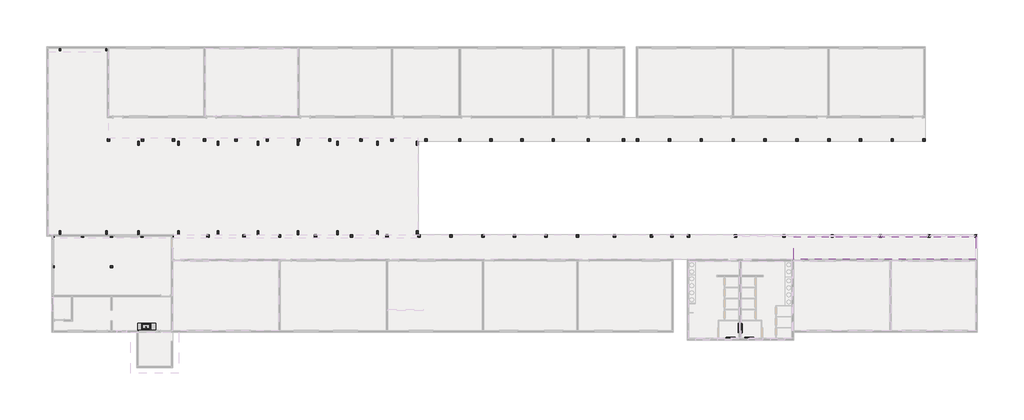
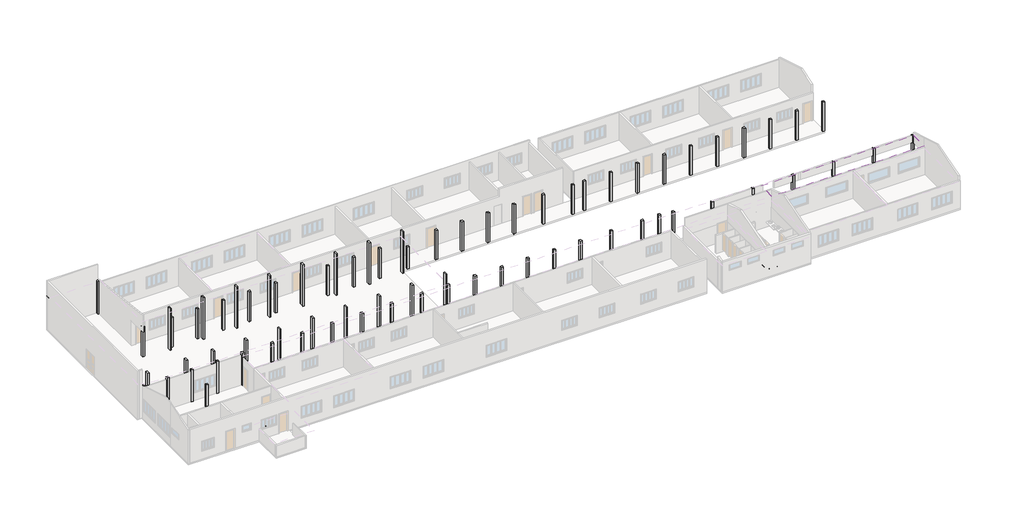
# One storey, part 5 of 5: 77 columns, 5 flow terminals, 1 covering, 1 furniture element.
"""IFC4 building model written with IfcOpenShell, lengths in millimetres."""

from ifc_helpers import new_model, si_unit, frame, origin, origin_with_axes, place, context, project, spatial, polyline, outline, extrude, transform, mapped, element, save
from components import h_af8cb1f5, h_bb77d2ff, m_sink_kitchen_single_760_x_535mm_74321b3d, m_counter_top_w_sink_600mm_depth_3438d379

model = new_model("IFC4")

# Units and contexts
model_context = context("Model", 3, world=origin())
ifc_project = project(units=[si_unit("LENGTHUNIT", "METRE", prefix="MILLI")], contexts=[model_context])

# Site, building, storey
site = spatial("IfcSite", under=ifc_project)
building = spatial("IfcBuilding", under=site)
storey = spatial("IfcBuildingStorey", under=building, Name="Planta de implantação", Elevation=0.0)

# Columns
placement = place(None, origin())
element("IfcColumn", 1, ObjectType="M_Concrete-Rectangular-Column : 130 x 350mm", at=placement, inside=storey, context=model_context, shape_type="SweptSolid", body=[
    extrude(outline(polyline([(-3710.2352635, -12868.3222718), (-3840.2352635, -12868.3222718), (-3840.2352635, -12518.3222718), (-3710.2352635, -12518.3222718), (-3710.2352635, -12868.3222718)])), origin_with_axes(), (0.0, 0.0, 1.0), 4536.0),
])
element("IfcColumn", 2, ObjectType="M_Concrete-Rectangular-Column : 130 x 350mm", at=placement, inside=storey, context=model_context, shape_type="SweptSolid", body=[
    extrude(outline(polyline([(-7110.2352635, -12868.3222718), (-7240.2352635, -12868.3222718), (-7240.2352635, -12518.3222718), (-7110.2352635, -12518.3222718), (-7110.2352635, -12868.3222718)])), origin_with_axes(), (0.0, 0.0, 1.0), 4536.0),
])
element("IfcColumn", 3, ObjectType="M_Concrete-Rectangular-Column : 130 x 350mm", at=placement, inside=storey, context=model_context, shape_type="SweptSolid", body=[
    extrude(outline(polyline([(-10510.2352635, -12868.3222718), (-10640.2352635, -12868.3222718), (-10640.2352635, -12518.3222718), (-10510.2352635, -12518.3222718), (-10510.2352635, -12868.3222718)])), origin_with_axes(), (0.0, 0.0, 1.0), 4536.0),
])
element("IfcColumn", 4, ObjectType="M_Concrete-Rectangular-Column : 130 x 350mm", at=placement, inside=storey, context=model_context, shape_type="SweptSolid", body=[
    extrude(outline(polyline([(-13910.2352635, -12868.3222718), (-14040.2352635, -12868.3222718), (-14040.2352635, -12518.3222718), (-13910.2352635, -12518.3222718), (-13910.2352635, -12868.3222718)])), origin_with_axes(), (0.0, 0.0, 1.0), 4536.0),
])
element("IfcColumn", 5, ObjectType="M_Concrete-Rectangular-Column : 130 x 350mm", at=placement, inside=storey, context=model_context, shape_type="SweptSolid", body=[
    extrude(outline(polyline([(-17310.2352635, -12868.3222718), (-17440.2352635, -12868.3222718), (-17440.2352635, -12518.3222718), (-17310.2352635, -12518.3222718), (-17310.2352635, -12868.3222718)])), origin_with_axes(), (0.0, 0.0, 1.0), 4536.0),
])
element("IfcColumn", 6, ObjectType="M_Concrete-Rectangular-Column : 130 x 350mm", at=placement, inside=storey, context=model_context, shape_type="SweptSolid", body=[
    extrude(outline(polyline([(-20710.2352635, -12868.3222718), (-20840.2352635, -12868.3222718), (-20840.2352635, -12518.3222718), (-20710.2352635, -12518.3222718), (-20710.2352635, -12868.3222718)])), origin_with_axes(), (0.0, 0.0, 1.0), 4536.0),
])
element("IfcColumn", 7, ObjectType="M_Concrete-Rectangular-Column : 130 x 350mm", at=placement, inside=storey, context=model_context, shape_type="SweptSolid", body=[
    extrude(outline(polyline([(-24110.2352635, -12868.3222718), (-24240.2352635, -12868.3222718), (-24240.2352635, -12518.3222718), (-24110.2352635, -12518.3222718), (-24110.2352635, -12868.3222718)])), origin_with_axes(), (0.0, 0.0, 1.0), 4536.0),
])
element("IfcColumn", 8, ObjectType="M_Concrete-Rectangular-Column : 130 x 350mm", at=placement, inside=storey, context=model_context, shape_type="SweptSolid", body=[
    extrude(outline(polyline([(-27510.2352635, -12868.3222718), (-27640.2352635, -12868.3222718), (-27640.2352635, -12518.3222718), (-27510.2352635, -12518.3222718), (-27510.2352635, -12868.3222718)])), origin_with_axes(), (0.0, 0.0, 1.0), 4536.0),
])
element("IfcColumn", 9, ObjectType="M_Concrete-Rectangular-Column : 130 x 350mm", at=placement, inside=storey, context=model_context, shape_type="SweptSolid", body=[
    extrude(outline(polyline([(-34210.2352635, -4808.3222718), (-34340.2352635, -4808.3222718), (-34340.2352635, -4458.3222718), (-34210.2352635, -4458.3222718), (-34210.2352635, -4808.3222718)])), origin_with_axes(), (0.0, 0.0, 1.0), 3568.8),
])
element("IfcColumn", 10, ObjectType="M_Concrete-Rectangular-Column : 130 x 350mm", at=placement, inside=storey, context=model_context, shape_type="SweptSolid", body=[
    extrude(outline(polyline([(-35310.2352635, -4808.3222718), (-35440.2352635, -4808.3222718), (-35440.2352635, -4458.3222718), (-35310.2352635, -4458.3222718), (-35310.2352635, -4808.3222718)])), origin_with_axes(), (0.0, 0.0, 1.0), 3568.8),
])
element("IfcColumn", 11, ObjectType="M_Concrete-Rectangular-Column : 130 x 350mm", at=placement, inside=storey, context=model_context, shape_type="SweptSolid", body=[
    extrude(outline(polyline([(-3710.2352635, -20518.3222718), (-3840.2352635, -20518.3222718), (-3840.2352635, -20168.3222718), (-3710.2352635, -20168.3222718), (-3710.2352635, -20518.3222718)])), origin_with_axes(), (0.0, 0.0, 1.0), 4536.0),
])
element("IfcColumn", 12, ObjectType="M_Concrete-Rectangular-Column : 130 x 350mm", at=placement, inside=storey, context=model_context, shape_type="SweptSolid", body=[
    extrude(outline(polyline([(-7110.2352635, -20518.3222718), (-7240.2352635, -20518.3222718), (-7240.2352635, -20168.3222718), (-7110.2352635, -20168.3222718), (-7110.2352635, -20518.3222718)])), origin_with_axes(), (0.0, 0.0, 1.0), 4536.0),
])
element("IfcColumn", 13, ObjectType="M_Concrete-Rectangular-Column : 130 x 350mm", at=placement, inside=storey, context=model_context, shape_type="SweptSolid", body=[
    extrude(outline(polyline([(-10510.2352635, -20518.3222718), (-10640.2352635, -20518.3222718), (-10640.2352635, -20168.3222718), (-10510.2352635, -20168.3222718), (-10510.2352635, -20518.3222718)])), origin_with_axes(), (0.0, 0.0, 1.0), 4536.0),
])
element("IfcColumn", 14, ObjectType="M_Concrete-Rectangular-Column : 130 x 350mm", at=placement, inside=storey, context=model_context, shape_type="SweptSolid", body=[
    extrude(outline(polyline([(-13910.2352635, -20518.3222718), (-14040.2352635, -20518.3222718), (-14040.2352635, -20168.3222718), (-13910.2352635, -20168.3222718), (-13910.2352635, -20518.3222718)])), origin_with_axes(), (0.0, 0.0, 1.0), 4536.0),
])
element("IfcColumn", 15, ObjectType="M_Concrete-Rectangular-Column : 130 x 350mm", at=placement, inside=storey, context=model_context, shape_type="SweptSolid", body=[
    extrude(outline(polyline([(-17310.2352635, -20518.3222718), (-17440.2352635, -20518.3222718), (-17440.2352635, -20168.3222718), (-17310.2352635, -20168.3222718), (-17310.2352635, -20518.3222718)])), origin_with_axes(), (0.0, 0.0, 1.0), 4536.0),
])
element("IfcColumn", 16, ObjectType="M_Concrete-Rectangular-Column : 130 x 350mm", at=placement, inside=storey, context=model_context, shape_type="SweptSolid", body=[
    extrude(outline(polyline([(-20710.2352635, -20518.3222718), (-20840.2352635, -20518.3222718), (-20840.2352635, -20168.3222718), (-20710.2352635, -20168.3222718), (-20710.2352635, -20518.3222718)])), origin_with_axes(), (0.0, 0.0, 1.0), 4536.0),
])
element("IfcColumn", 17, ObjectType="M_Concrete-Rectangular-Column : 130 x 350mm", at=placement, inside=storey, context=model_context, shape_type="SweptSolid", body=[
    extrude(outline(polyline([(-24110.2352635, -20518.3222718), (-24240.2352635, -20518.3222718), (-24240.2352635, -20168.3222718), (-24110.2352635, -20168.3222718), (-24110.2352635, -20518.3222718)])), origin_with_axes(), (0.0, 0.0, 1.0), 4536.0),
])
element("IfcColumn", 18, ObjectType="M_Concrete-Rectangular-Column : 130 x 350mm", at=placement, inside=storey, context=model_context, shape_type="SweptSolid", body=[
    extrude(outline(polyline([(-27510.2352635, -20518.3222718), (-27640.2352635, -20518.3222718), (-27640.2352635, -20168.3222718), (-27510.2352635, -20168.3222718), (-27510.2352635, -20518.3222718)])), origin_with_axes(), (0.0, 0.0, 1.0), 4536.0),
])
element("IfcColumn", 19, ObjectType="M_Concrete-Rectangular-Column : 130 x 350mm", at=placement, inside=storey, context=model_context, shape_type="SweptSolid", body=[
    extrude(outline(polyline([(-30260.2352635, -20518.3222718), (-30390.2352635, -20518.3222718), (-30390.2352635, -20168.3222718), (-30260.2352635, -20168.3222718), (-30260.2352635, -20518.3222718)])), origin_with_axes(), (0.0, 0.0, 1.0), 4536.0),
])
element("IfcColumn", 20, ObjectType="M_Concrete-Rectangular-Column : 130 x 350mm", at=placement, inside=storey, context=model_context, shape_type="SweptSolid", body=[
    extrude(outline(polyline([(-34210.2352635, -20518.3222718), (-34340.2352635, -20518.3222718), (-34340.2352635, -20168.3222718), (-34210.2352635, -20168.3222718), (-34210.2352635, -20518.3222718)])), origin_with_axes(), (0.0, 0.0, 1.0), 4536.0),
])
element("IfcColumn", 21, ObjectType="M_Concrete-Rectangular-Column : 130 x 350mm", at=placement, inside=storey, context=model_context, shape_type="SweptSolid", body=[
    extrude(outline(polyline([(-30260.2352635, -4808.3222718), (-30390.2352635, -4808.3222718), (-30390.2352635, -4458.3222718), (-30260.2352635, -4458.3222718), (-30260.2352635, -4808.3222718)])), origin_with_axes(), (0.0, 0.0, 1.0), 3568.8),
])
element("IfcColumn", 22, ObjectType="M_Concrete-Square-Column : 200 x 200mm", at=placement, inside=storey, context=model_context, shape_type="SweptSolid", body=[
    extrude(outline(polyline([(-30060.2352635, -12518.3222718), (-30260.2352635, -12518.3222718), (-30260.2352635, -12318.3222718), (-30060.2352635, -12318.3222718), (-30060.2352635, -12518.3222718)])), origin_with_axes(), (0.0, 0.0, 1.0), 3240.0),
])
element("IfcColumn", 23, ObjectType="M_Concrete-Square-Column : 200 x 200mm", at=placement, inside=storey, context=model_context, shape_type="SweptSolid", body=[
    extrude(outline(polyline([(13949.7647365, -12518.3222718), (13749.7647365, -12518.3222718), (13749.7647365, -12318.3222718), (13949.7647365, -12318.3222718), (13949.7647365, -12518.3222718)])), origin_with_axes(), (0.0, 0.0, 1.0), 3210.0),
])
element("IfcColumn", 24, ObjectType="M_Concrete-Square-Column : 200 x 200mm", at=placement, inside=storey, context=model_context, shape_type="SweptSolid", body=[
    extrude(outline(polyline([(15129.7647365, -12518.3222718), (14929.7647365, -12518.3222718), (14929.7647365, -12318.3222718), (15129.7647365, -12318.3222718), (15129.7647365, -12518.3222718)])), origin_with_axes(), (0.0, 0.0, 1.0), 3210.0),
])
element("IfcColumn", 25, ObjectType="M_Concrete-Square-Column : 200 x 200mm", at=placement, inside=storey, context=model_context, shape_type="SweptSolid", body=[
    extrude(outline(polyline([(39599.7647365, -12518.3222718), (39399.7647365, -12518.3222718), (39399.7647365, -12318.3222718), (39599.7647365, -12318.3222718), (39599.7647365, -12518.3222718)])), origin_with_axes(), (0.0, 0.0, 1.0), 3210.0),
])
element("IfcColumn", 26, ObjectType="M_Concrete-Square-Column : 200 x 200mm", at=placement, inside=storey, context=model_context, shape_type="SweptSolid", body=[
    extrude(outline(polyline([(-21835.2352635, -12518.3222718), (-22035.2352635, -12518.3222718), (-22035.2352635, -12318.3222718), (-21835.2352635, -12318.3222718), (-21835.2352635, -12518.3222718)])), origin_with_axes(), (0.0, 0.0, 1.0), 3240.0),
])
element("IfcColumn", 27, ObjectType="M_Concrete-Square-Column : 200 x 200mm", at=placement, inside=storey, context=model_context, shape_type="SweptSolid", body=[
    extrude(outline(polyline([(-24483.5685969, -12518.3222718), (-24683.5685969, -12518.3222718), (-24683.5685969, -12318.3222718), (-24483.5685969, -12318.3222718), (-24483.5685969, -12518.3222718)])), origin_with_axes(), (0.0, 0.0, 1.0), 3240.0),
])
element("IfcColumn", 28, ObjectType="M_Concrete-Square-Column : 200 x 200mm", at=placement, inside=storey, context=model_context, shape_type="SweptSolid", body=[
    extrude(outline(polyline([(-27131.9019302, -12518.3222718), (-27331.9019302, -12518.3222718), (-27331.9019302, -12318.3222718), (-27131.9019302, -12318.3222718), (-27131.9019302, -12518.3222718)])), origin_with_axes(), (0.0, 0.0, 1.0), 3240.0),
])
element("IfcColumn", 29, ObjectType="M_Concrete-Square-Column : 200 x 200mm", at=placement, inside=storey, context=model_context, shape_type="SweptSolid", body=[
    extrude(outline(polyline([(-13805.2352635, -12518.3222718), (-14005.2352635, -12518.3222718), (-14005.2352635, -12318.3222718), (-13805.2352635, -12318.3222718), (-13805.2352635, -12518.3222718)])), origin_with_axes(), (0.0, 0.0, 1.0), 3240.0),
])
element("IfcColumn", 30, ObjectType="M_Concrete-Square-Column : 200 x 200mm", at=placement, inside=storey, context=model_context, shape_type="SweptSolid", body=[
    extrude(outline(polyline([(-16481.9019302, -12518.3222718), (-16681.9019302, -12518.3222718), (-16681.9019302, -12318.3222718), (-16481.9019302, -12318.3222718), (-16481.9019302, -12518.3222718)])), origin_with_axes(), (0.0, 0.0, 1.0), 3240.0),
])
element("IfcColumn", 31, ObjectType="M_Concrete-Square-Column : 200 x 200mm", at=placement, inside=storey, context=model_context, shape_type="SweptSolid", body=[
    extrude(outline(polyline([(-19158.5685969, -12518.3222718), (-19358.5685969, -12518.3222718), (-19358.5685969, -12318.3222718), (-19158.5685969, -12318.3222718), (-19158.5685969, -12518.3222718)])), origin_with_axes(), (0.0, 0.0, 1.0), 3240.0),
])
element("IfcColumn", 32, ObjectType="M_Concrete-Square-Column : 200 x 200mm", at=placement, inside=storey, context=model_context, shape_type="SweptSolid", body=[
    extrude(outline(polyline([(-5825.2352635, -12518.3222718), (-6025.2352635, -12518.3222718), (-6025.2352635, -12318.3222718), (-5825.2352635, -12318.3222718), (-5825.2352635, -12518.3222718)])), origin_with_axes(), (0.0, 0.0, 1.0), 3240.0),
])
element("IfcColumn", 33, ObjectType="M_Concrete-Square-Column : 200 x 200mm", at=placement, inside=storey, context=model_context, shape_type="SweptSolid", body=[
    extrude(outline(polyline([(-8485.2352635, -12518.3222718), (-8685.2352635, -12518.3222718), (-8685.2352635, -12318.3222718), (-8485.2352635, -12318.3222718), (-8485.2352635, -12518.3222718)])), origin_with_axes(), (0.0, 0.0, 1.0), 3240.0),
])
element("IfcColumn", 34, ObjectType="M_Concrete-Square-Column : 200 x 200mm", at=placement, inside=storey, context=model_context, shape_type="SweptSolid", body=[
    extrude(outline(polyline([(-11145.2352635, -12518.3222718), (-11345.2352635, -12518.3222718), (-11345.2352635, -12318.3222718), (-11145.2352635, -12318.3222718), (-11145.2352635, -12518.3222718)])), origin_with_axes(), (0.0, 0.0, 1.0), 3240.0),
])
element("IfcColumn", 35, ObjectType="M_Concrete-Square-Column : 200 x 200mm", at=placement, inside=storey, context=model_context, shape_type="SweptSolid", body=[
    extrude(outline(polyline([(-45.2352635, -12518.3222718), (-245.2352635, -12518.3222718), (-245.2352635, -12318.3222718), (-45.2352635, -12318.3222718), (-45.2352635, -12518.3222718)])), origin_with_axes(), (0.0, 0.0, 1.0), 3210.0),
])
element("IfcColumn", 36, ObjectType="M_Concrete-Square-Column : 200 x 200mm", at=placement, inside=storey, context=model_context, shape_type="SweptSolid", body=[
    extrude(outline(polyline([(-2935.2352635, -12518.3222718), (-3135.2352635, -12518.3222718), (-3135.2352635, -12318.3222718), (-2935.2352635, -12318.3222718), (-2935.2352635, -12518.3222718)])), origin_with_axes(), (0.0, 0.0, 1.0), 2390.0),
])
element("IfcColumn", 37, ObjectType="M_Concrete-Square-Column : 200 x 200mm", at=placement, inside=storey, context=model_context, shape_type="SweptSolid", body=[
    extrude(outline(polyline([(7934.7647365, -12518.3222718), (7734.7647365, -12518.3222718), (7734.7647365, -12318.3222718), (7934.7647365, -12318.3222718), (7934.7647365, -12518.3222718)])), origin_with_axes(), (0.0, 0.0, 1.0), 3210.0),
])
element("IfcColumn", 38, ObjectType="M_Concrete-Square-Column : 200 x 200mm", at=placement, inside=storey, context=model_context, shape_type="SweptSolid", body=[
    extrude(outline(polyline([(5274.7647365, -12518.3222718), (5074.7647365, -12518.3222718), (5074.7647365, -12318.3222718), (5274.7647365, -12318.3222718), (5274.7647365, -12518.3222718)])), origin_with_axes(), (0.0, 0.0, 1.0), 3210.0),
])
element("IfcColumn", 39, ObjectType="M_Concrete-Square-Column : 200 x 200mm", at=placement, inside=storey, context=model_context, shape_type="SweptSolid", body=[
    extrude(outline(polyline([(2614.7647365, -12518.3222718), (2414.7647365, -12518.3222718), (2414.7647365, -12318.3222718), (2614.7647365, -12318.3222718), (2614.7647365, -12518.3222718)])), origin_with_axes(), (0.0, 0.0, 1.0), 3210.0),
])
element("IfcColumn", 40, ObjectType="M_Concrete-Square-Column : 200 x 200mm", at=placement, inside=storey, context=model_context, shape_type="SweptSolid", body=[
    extrude(outline(polyline([(10934.7647365, -12518.3222718), (10734.7647365, -12518.3222718), (10734.7647365, -12318.3222718), (10934.7647365, -12318.3222718), (10934.7647365, -12518.3222718)])), origin_with_axes(), (0.0, 0.0, 1.0), 3210.0),
])
element("IfcColumn", 41, ObjectType="M_Concrete-Square-Column : 200 x 200mm", at=placement, inside=storey, context=model_context, shape_type="SweptSolid", body=[
    extrude(outline(polyline([(23309.7647365, -12518.3222718), (23109.7647365, -12518.3222718), (23109.7647365, -12318.3222718), (23309.7647365, -12318.3222718), (23309.7647365, -12518.3222718)])), origin_with_axes(), (0.0, 0.0, 1.0), 3210.0),
])
element("IfcColumn", 42, ObjectType="M_Concrete-Square-Column : 200 x 200mm", at=placement, inside=storey, context=model_context, shape_type="SweptSolid", body=[
    extrude(outline(polyline([(31489.7647365, -12518.3222718), (31289.7647365, -12518.3222718), (31289.7647365, -12318.3222718), (31489.7647365, -12318.3222718), (31489.7647365, -12518.3222718)])), origin_with_axes(), (0.0, 0.0, 1.0), 3210.0),
])
element("IfcColumn", 43, ObjectType="M_Concrete-Square-Column : 200 x 200mm", at=placement, inside=storey, context=model_context, shape_type="SweptSolid", body=[
    extrude(outline(polyline([(36896.4314031, -12518.3222718), (36696.4314031, -12518.3222718), (36696.4314031, -12318.3222718), (36896.4314031, -12318.3222718), (36896.4314031, -12518.3222718)])), origin_with_axes(), (0.0, 0.0, 1.0), 3210.0),
])
element("IfcColumn", 44, ObjectType="M_Concrete-Square-Column : 200 x 200mm", at=placement, inside=storey, context=model_context, shape_type="SweptSolid", body=[
    extrude(outline(polyline([(20583.0980698, -12518.3222718), (20383.0980698, -12518.3222718), (20383.0980698, -12318.3222718), (20583.0980698, -12318.3222718), (20583.0980698, -12518.3222718)])), origin_with_axes(), (0.0, 0.0, 1.0), 3210.0),
])
element("IfcColumn", 45, ObjectType="M_Concrete-Square-Column : 200 x 200mm", at=placement, inside=storey, context=model_context, shape_type="SweptSolid", body=[
    extrude(outline(polyline([(28763.0980698, -12518.3222718), (28563.0980698, -12518.3222718), (28563.0980698, -12318.3222718), (28763.0980698, -12318.3222718), (28763.0980698, -12518.3222718)])), origin_with_axes(), (0.0, 0.0, 1.0), 3210.0),
])
element("IfcColumn", 46, ObjectType="M_Concrete-Square-Column : 200 x 200mm", at=placement, inside=storey, context=model_context, shape_type="SweptSolid", body=[
    extrude(outline(polyline([(34193.0980698, -12518.3222718), (33993.0980698, -12518.3222718), (33993.0980698, -12318.3222718), (34193.0980698, -12318.3222718), (34193.0980698, -12518.3222718)])), origin_with_axes(), (0.0, 0.0, 1.0), 3210.0),
])
element("IfcColumn", 47, ObjectType="M_Concrete-Square-Column : 200 x 200mm", at=placement, inside=storey, context=model_context, shape_type="SweptSolid", body=[
    extrude(outline(polyline([(17856.4314031, -12518.3222718), (17656.4314031, -12518.3222718), (17656.4314031, -12318.3222718), (17856.4314031, -12318.3222718), (17856.4314031, -12518.3222718)])), origin_with_axes(), (0.0, 0.0, 1.0), 3210.0),
])
element("IfcColumn", 48, ObjectType="M_Concrete-Square-Column : 200 x 200mm", at=placement, inside=storey, context=model_context, shape_type="SweptSolid", body=[
    extrude(outline(polyline([(26036.4314031, -12518.3222718), (25836.4314031, -12518.3222718), (25836.4314031, -12318.3222718), (26036.4314031, -12318.3222718), (26036.4314031, -12518.3222718)])), origin_with_axes(), (0.0, 0.0, 1.0), 3210.0),
])
element("IfcColumn", 49, ObjectType="M_Concrete-Square-Column : 200 x 200mm", at=placement, inside=storey, context=model_context, shape_type="SweptSolid", body=[
    extrude(outline(polyline([(-34780.2352635, -20518.3222718), (-34780.2352635, -20718.3222718), (-34980.2352635, -20718.3222718), (-34980.2352635, -20518.3222718), (-34780.2352635, -20518.3222718)])), origin_with_axes(), (0.0, 0.0, 1.0), 3480.0),
])
element("IfcColumn", 50, ObjectType="M_Concrete-Square-Column : 200 x 200mm", at=placement, inside=storey, context=model_context, shape_type="SweptSolid", body=[
    extrude(outline(polyline([(16331.4314031, -20518.3222718), (16331.4314031, -20718.3222718), (16131.4314031, -20718.3222718), (16131.4314031, -20518.3222718), (16331.4314031, -20518.3222718)])), origin_with_axes(), (0.0, 0.0, 1.0), 3480.0),
])
element("IfcColumn", 51, ObjectType="M_Concrete-Square-Column : 200 x 200mm", at=placement, inside=storey, context=model_context, shape_type="SweptSolid", body=[
    extrude(outline(polyline([(-29785.2352635, -20518.3222718), (-29785.2352635, -20718.3222718), (-29985.2352635, -20718.3222718), (-29985.2352635, -20518.3222718), (-29785.2352635, -20518.3222718)])), origin_with_axes(), (0.0, 0.0, 1.0), 3480.0),
])
element("IfcColumn", 52, ObjectType="M_Concrete-Square-Column : 200 x 200mm", at=placement, inside=storey, context=model_context, shape_type="SweptSolid", body=[
    extrude(outline(polyline([(-32282.7352635, -20518.3222718), (-32282.7352635, -20718.3222718), (-32482.7352635, -20718.3222718), (-32482.7352635, -20518.3222718), (-32282.7352635, -20518.3222718)])), origin_with_axes(), (0.0, 0.0, 1.0), 3480.0),
])
element("IfcColumn", 53, ObjectType="M_Concrete-Square-Column : 200 x 200mm", at=placement, inside=storey, context=model_context, shape_type="SweptSolid", body=[
    extrude(outline(polyline([(-15425.2352635, -20518.3222718), (-15425.2352635, -20718.3222718), (-15625.2352635, -20718.3222718), (-15625.2352635, -20518.3222718), (-15425.2352635, -20518.3222718)])), origin_with_axes(), (0.0, 0.0, 1.0), 3480.0),
])
element("IfcColumn", 54, ObjectType="M_Concrete-Square-Column : 200 x 200mm", at=placement, inside=storey, context=model_context, shape_type="SweptSolid", body=[
    extrude(outline(polyline([(-18485.2352635, -20518.3222718), (-18485.2352635, -20718.3222718), (-18685.2352635, -20718.3222718), (-18685.2352635, -20518.3222718), (-18485.2352635, -20518.3222718)])), origin_with_axes(), (0.0, 0.0, 1.0), 3480.0),
])
element("IfcColumn", 55, ObjectType="M_Concrete-Square-Column : 200 x 200mm", at=placement, inside=storey, context=model_context, shape_type="SweptSolid", body=[
    extrude(outline(polyline([(-24605.2352635, -20518.3222718), (-24605.2352635, -20718.3222718), (-24805.2352635, -20718.3222718), (-24805.2352635, -20518.3222718), (-24605.2352635, -20518.3222718)])), origin_with_axes(), (0.0, 0.0, 1.0), 3480.0),
])
element("IfcColumn", 56, ObjectType="M_Concrete-Square-Column : 200 x 200mm", at=placement, inside=storey, context=model_context, shape_type="SweptSolid", body=[
    extrude(outline(polyline([(-6245.2352635, -20518.3222718), (-6245.2352635, -20718.3222718), (-6445.2352635, -20718.3222718), (-6445.2352635, -20518.3222718), (-6245.2352635, -20518.3222718)])), origin_with_axes(), (0.0, 0.0, 1.0), 3480.0),
])
element("IfcColumn", 57, ObjectType="M_Concrete-Square-Column : 200 x 200mm", at=placement, inside=storey, context=model_context, shape_type="SweptSolid", body=[
    extrude(outline(polyline([(-9305.2352635, -20518.3222718), (-9305.2352635, -20718.3222718), (-9505.2352635, -20718.3222718), (-9505.2352635, -20518.3222718), (-9305.2352635, -20518.3222718)])), origin_with_axes(), (0.0, 0.0, 1.0), 3480.0),
])
element("IfcColumn", 58, ObjectType="M_Concrete-Square-Column : 200 x 200mm", at=placement, inside=storey, context=model_context, shape_type="SweptSolid", body=[
    extrude(outline(polyline([(-12365.2352635, -20518.3222718), (-12365.2352635, -20718.3222718), (-12565.2352635, -20718.3222718), (-12565.2352635, -20518.3222718), (-12365.2352635, -20518.3222718)])), origin_with_axes(), (0.0, 0.0, 1.0), 3480.0),
])
element("IfcColumn", 59, ObjectType="M_Concrete-Square-Column : 200 x 200mm", at=placement, inside=storey, context=model_context, shape_type="SweptSolid", body=[
    extrude(outline(polyline([(1934.7647365, -20518.3222718), (1934.7647365, -20718.3222718), (1734.7647365, -20718.3222718), (1734.7647365, -20518.3222718), (1934.7647365, -20518.3222718)])), origin_with_axes(), (0.0, 0.0, 1.0), 3480.0),
])
element("IfcColumn", 60, ObjectType="M_Concrete-Square-Column : 200 x 200mm", at=placement, inside=storey, context=model_context, shape_type="SweptSolid", body=[
    extrude(outline(polyline([(-3518.5685969, -20518.3222718), (-3518.5685969, -20718.3222718), (-3718.5685969, -20718.3222718), (-3718.5685969, -20518.3222718), (-3518.5685969, -20518.3222718)])), origin_with_axes(), (0.0, 0.0, 1.0), 3480.0),
])
element("IfcColumn", 61, ObjectType="M_Concrete-Square-Column : 200 x 200mm", at=placement, inside=storey, context=model_context, shape_type="SweptSolid", body=[
    extrude(outline(polyline([(10014.7647365, -20518.3222718), (10014.7647365, -20718.3222718), (9814.7647365, -20718.3222718), (9814.7647365, -20518.3222718), (10014.7647365, -20518.3222718)])), origin_with_axes(), (0.0, 0.0, 1.0), 3480.0),
])
element("IfcColumn", 62, ObjectType="M_Concrete-Square-Column : 200 x 200mm", at=placement, inside=storey, context=model_context, shape_type="SweptSolid", body=[
    extrude(outline(polyline([(7321.4314031, -20518.3222718), (7321.4314031, -20718.3222718), (7121.4314031, -20718.3222718), (7121.4314031, -20518.3222718), (7321.4314031, -20518.3222718)])), origin_with_axes(), (0.0, 0.0, 1.0), 3480.0),
])
element("IfcColumn", 63, ObjectType="M_Concrete-Square-Column : 200 x 200mm", at=placement, inside=storey, context=model_context, shape_type="SweptSolid", body=[
    extrude(outline(polyline([(4628.0980698, -20518.3222718), (4628.0980698, -20718.3222718), (4428.0980698, -20718.3222718), (4428.0980698, -20518.3222718), (4628.0980698, -20518.3222718)])), origin_with_axes(), (0.0, 0.0, 1.0), 3480.0),
])
element("IfcColumn", 64, ObjectType="M_Concrete-Square-Column : 200 x 200mm", at=placement, inside=storey, context=model_context, shape_type="SweptSolid", body=[
    extrude(outline(polyline([(13173.0980698, -20518.3222718), (13173.0980698, -20718.3222718), (12973.0980698, -20718.3222718), (12973.0980698, -20518.3222718), (13173.0980698, -20518.3222718)])), origin_with_axes(), (0.0, 0.0, 1.0), 3480.0),
])
element("IfcColumn", 65, ObjectType="M_Concrete-Square-Column : 200 x 200mm", at=placement, inside=storey, context=model_context, shape_type="SweptSolid", body=[
    extrude(outline(polyline([(-27195.2352635, -20518.3222718), (-27195.2352635, -20718.3222718), (-27395.2352635, -20718.3222718), (-27395.2352635, -20518.3222718), (-27195.2352635, -20518.3222718)])), origin_with_axes(), (0.0, 0.0, 1.0), 3480.0),
])
element("IfcColumn", 66, ObjectType="M_Concrete-Square-Column : 200 x 200mm", at=placement, inside=storey, context=model_context, shape_type="SweptSolid", body=[
    extrude(outline(polyline([(-34780.2352635, -23143.3222718), (-34780.2352635, -23343.3222718), (-34980.2352635, -23343.3222718), (-34980.2352635, -23143.3222718), (-34780.2352635, -23143.3222718)])), origin_with_axes(), (0.0, 0.0, 1.0), 3437.75),
])
element("IfcColumn", 67, ObjectType="M_Concrete-Square-Column : 200 x 200mm", at=placement, inside=storey, context=model_context, shape_type="SweptSolid", body=[
    extrude(outline(polyline([(-29785.2352635, -23143.3222718), (-29785.2352635, -23343.3222718), (-29985.2352635, -23343.3222718), (-29985.2352635, -23143.3222718), (-29785.2352635, -23143.3222718)])), origin_with_axes(), (0.0, 0.0, 1.0), 3437.75),
])
element("IfcColumn", 68, ObjectType="M_Concrete-Square-Column : 200 x 200mm", at=placement, inside=storey, context=model_context, shape_type="SweptSolid", body=[
    extrude(outline(polyline([(-21545.2352635, -20518.3222718), (-21545.2352635, -20718.3222718), (-21745.2352635, -20718.3222718), (-21745.2352635, -20518.3222718), (-21545.2352635, -20518.3222718)])), origin_with_axes(), (0.0, 0.0, 1.0), 3480.0),
])
element("IfcColumn", 69, ObjectType="M_Concrete-Square-Column : 200 x 200mm", at=placement, inside=storey, context=model_context, shape_type="SweptSolid", body=[
    extrude(outline(polyline([(-791.9019302, -20518.3222718), (-791.9019302, -20718.3222718), (-991.9019302, -20718.3222718), (-991.9019302, -20518.3222718), (-791.9019302, -20518.3222718)])), origin_with_axes(), (0.0, 0.0, 1.0), 3480.0),
])
element("IfcColumn", 70, ObjectType="M_Concrete-Square-Column : 200 x 200mm", at=placement, inside=storey, context=model_context, shape_type="SweptSolid", body=[
    extrude(outline(polyline([(19489.7647365, -20518.3222718), (19489.7647365, -20718.3222718), (19289.7647365, -20718.3222718), (19289.7647365, -20518.3222718), (19489.7647365, -20518.3222718)])), origin_with_axes(), (0.0, 0.0, 1.0), 3300.0),
])
element("IfcColumn", 71, ObjectType="M_Concrete-Square-Column : 200 x 200mm", at=placement, inside=storey, context=model_context, shape_type="SweptSolid", body=[
    extrude(outline(polyline([(23317.2647365, -20518.3222718), (23517.2647365, -20518.3222718), (23517.2647365, -20718.3222718), (23317.2647365, -20718.3222718), (23317.2647365, -20518.3222718)])), origin_with_axes(), (0.0, 0.0, 1.0), 3000.0),
])
element("IfcColumn", 72, ObjectType="M_Concrete-Square-Column : 200 x 200mm", at=placement, inside=storey, context=model_context, shape_type="SweptSolid", body=[
    extrude(outline(polyline([(43854.7647365, -20518.3222718), (44054.7647365, -20518.3222718), (44054.7647365, -20718.3222718), (43854.7647365, -20718.3222718), (43854.7647365, -20518.3222718)])), origin_with_axes(), (0.0, 0.0, 1.0), 3000.0),
])
element("IfcColumn", 73, ObjectType="M_Concrete-Square-Column : 200 x 200mm", at=placement, inside=storey, context=model_context, shape_type="SweptSolid", body=[
    extrude(outline(polyline([(31572.2647365, -20518.3222718), (31772.2647365, -20518.3222718), (31772.2647365, -20718.3222718), (31572.2647365, -20718.3222718), (31572.2647365, -20518.3222718)])), origin_with_axes(), (0.0, 0.0, 1.0), 3000.0),
])
element("IfcColumn", 74, ObjectType="M_Concrete-Square-Column : 200 x 200mm", at=placement, inside=storey, context=model_context, shape_type="SweptSolid", body=[
    extrude(outline(polyline([(35699.7647365, -20518.3222718), (35899.7647365, -20518.3222718), (35899.7647365, -20718.3222718), (35699.7647365, -20718.3222718), (35699.7647365, -20518.3222718)])), origin_with_axes(), (0.0, 0.0, 1.0), 3000.0),
])
element("IfcColumn", 75, ObjectType="M_Concrete-Square-Column : 200 x 200mm", at=placement, inside=storey, context=model_context, shape_type="SweptSolid", body=[
    extrude(outline(polyline([(39827.2647365, -20518.3222718), (40027.2647365, -20518.3222718), (40027.2647365, -20718.3222718), (39827.2647365, -20718.3222718), (39827.2647365, -20518.3222718)])), origin_with_axes(), (0.0, 0.0, 1.0), 3000.0),
])
element("IfcColumn", 76, ObjectType="M_Concrete-Square-Column : 200 x 200mm", at=placement, inside=storey, context=model_context, shape_type="SweptSolid", body=[
    extrude(outline(polyline([(27444.7647365, -20518.3222718), (27644.7647365, -20518.3222718), (27644.7647365, -20718.3222718), (27444.7647365, -20718.3222718), (27444.7647365, -20518.3222718)])), origin_with_axes(), (0.0, 0.0, 1.0), 3000.0),
])
element("IfcColumn", 77, ObjectType="M_Concrete-Square-Column : 200 x 200mm", at=placement, inside=storey, context=model_context, shape_type="SweptSolid", body=[
    extrude(outline(polyline([(18079.7647365, -20518.3222718), (18079.7647365, -20718.3222718), (17879.7647365, -20718.3222718), (17879.7647365, -20518.3222718), (18079.7647365, -20518.3222718)])), origin_with_axes(), (0.0, 0.0, 1.0), 3480.0),
])

# Covering
element("IfcCovering", 78, ObjectType="Plain", at=placement, inside=storey, context=model_context, shape_type="SweptSolid", body=[
    extrude(outline(polyline([(43944.7647365, -22618.3222718), (28364.7647365, -22618.3222718), (28364.7647365, -20683.3222718), (43944.7647365, -20683.3222718), (43944.7647365, -22618.3222718)])), frame((0.0, 0.0, 3000.0), z_axis=(0.0, 0.0, 1.0), x_axis=(1.0, 0.0, 0.0)), (0.0, 0.0, 1.0), 57.0),
])

# Flow terminals
h_shape = h_af8cb1f5(model_context)
element("IfcFlowTerminal", 79, ObjectType="Barre d'appui - Horizontale.0001 : H", at=placement, inside=storey, context=model_context, shape_type="MappedRepresentation", body=[
    mapped(h_shape, transform((25450.560403, -29368.3222718, 0.0), x_axis=(1.0, 0.0, 0.0), y_axis=(0.0, 1.0, 0.0), z_axis=(0.0, 0.0, 1.0))),
])
element("IfcFlowTerminal", 80, ObjectType="Barre d'appui - Horizontale.0001 : H", at=placement, inside=storey, context=model_context, shape_type="MappedRepresentation", body=[
    mapped(h_shape, transform((23894.7647365, -29346.1491883, 0.0), x_axis=(0.0, -1.0, 0.0), y_axis=(1.0, 0.0, 0.0), z_axis=(0.0, 0.0, 1.0))),
])
h_2_shape = h_bb77d2ff(model_context)
element("IfcFlowTerminal", 81, ObjectType="Barre d'appui - Horizontale.0001 : H", at=placement, inside=storey, context=model_context, shape_type="MappedRepresentation", body=[
    mapped(h_2_shape, transform((22138.96907, -29368.3222718, 0.0), x_axis=(-1.0, 0.0, 0.0), y_axis=(0.0, -1.0, 0.0), z_axis=(0.0, 0.0, 1.0))),
])
element("IfcFlowTerminal", 82, ObjectType="Barre d'appui - Horizontale.0001 : H", at=placement, inside=storey, context=model_context, shape_type="MappedRepresentation", body=[
    mapped(h_2_shape, transform((23714.7647365, -29346.1491883, 0.0), x_axis=(0.0, -1.0, 0.0), y_axis=(1.0, 0.0, 0.0), z_axis=(0.0, 0.0, 1.0))),
])
m_sink_kitchen_single_760_x_535mm_shape = m_sink_kitchen_single_760_x_535mm_74321b3d(model_context)
element("IfcFlowTerminal", 83, ObjectType="M_Sink Kitchen-Single : 760 x 535mm", at=placement, inside=storey, context=model_context, shape_type="MappedRepresentation", body=[
    mapped(m_sink_kitchen_single_760_x_535mm_shape, transform((-26917.6249848, -28385.3768707, 0.0), x_axis=(-1.0, 0.0, 0.0), y_axis=(0.0, -1.0, 0.0), z_axis=(0.0, 0.0, 1.0))),
])

# Furniture
m_counter_top_w_sink_600mm_depth_shape = m_counter_top_w_sink_600mm_depth_3438d379(model_context)
element("IfcFurniture", 84, ObjectType="M_Counter Top w Sink : 600mm Depth", at=placement, inside=storey, context=model_context, shape_type="MappedRepresentation", body=[
    mapped(m_counter_top_w_sink_600mm_depth_shape, transform((-27328.0759316, -28698.3222718, 0.0), x_axis=(-1.0, 0.0, 0.0), y_axis=(0.0, -1.0, 0.0), z_axis=(0.0, 0.0, 1.0))),
])

save(model, "model.ifc")
